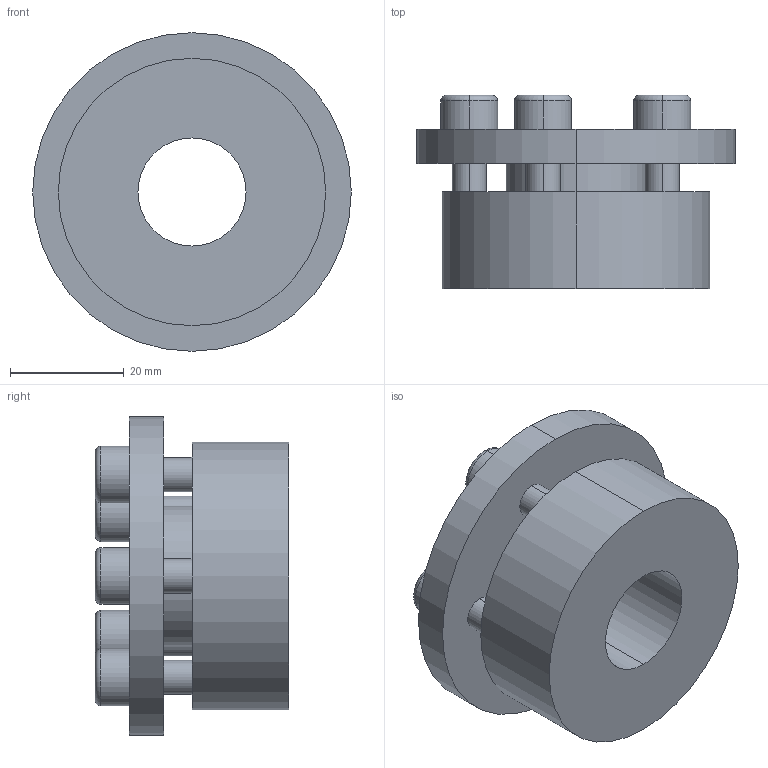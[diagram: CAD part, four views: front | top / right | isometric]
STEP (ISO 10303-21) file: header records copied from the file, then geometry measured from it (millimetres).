
FILE_DESCRIPTION (( 'STEP AP203' ), '1' );
FILE_NAME ('PL-H6 19-47.STEP', '2021-10-23T01:34:13', ( '' ), ( '' ), 'SwSTEP 2.0', 'SolidWorks 2018', '' );
FILE_SCHEMA (( 'CONFIG_CONTROL_DESIGN' ));
Length unit declared in the file: millimetre
Products named in the file (1): PL-H6 19-47
Bounding box: 56 x 34 x 56 mm (x, y, z)
Volume: 41415.9 mm3; surface area: 13822.9 mm2
Topology: 1 solids, 1 shells, 82 faces, 194 edges, 126 vertices
Faces by surface type: plane 44, cylinder 28, torus 10
Entity records: 2475 total; most frequent: DIRECTION 436, CARTESIAN_POINT 403, ORIENTED_EDGE 388, EDGE_CURVE 194, AXIS2_PLACEMENT_3D 159, VERTEX_POINT 126, VECTOR 118, LINE 118
